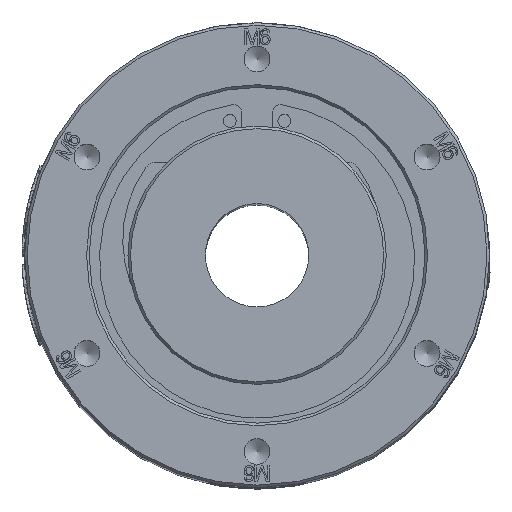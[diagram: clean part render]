
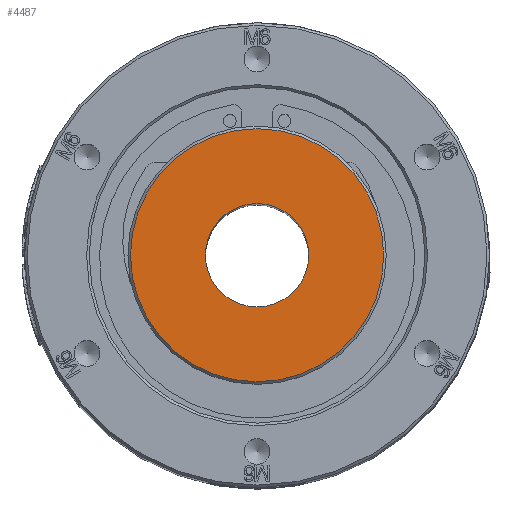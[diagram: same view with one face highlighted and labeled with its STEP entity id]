
A CAD part, top view. The second image highlights one B-rep face of the part: STEP entity #4487.
In plain terms, the highlighted planar face has unit normal (0, 0, 1).
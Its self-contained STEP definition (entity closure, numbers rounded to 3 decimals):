
#661=FACE_BOUND('',#10747,.T.);
#662=FACE_BOUND('',#10748,.T.);
#2403=CIRCLE('',#48898,10.);
#2515=CIRCLE('',#49134,24.5);
#4487=ADVANCED_FACE('',(#661,#662),#5989,.T.);
#5989=PLANE('',#49135);
#10747=EDGE_LOOP('',(#25180));
#10748=EDGE_LOOP('',(#25181));
#25180=ORIENTED_EDGE('',*,*,#39926,.T.);
#25181=ORIENTED_EDGE('',*,*,#39748,.F.);
#33243=VERTEX_POINT('',#91707);
#33387=VERTEX_POINT('',#92723);
#39748=EDGE_CURVE('',#33243,#33243,#2403,.T.);
#39926=EDGE_CURVE('',#33387,#33387,#2515,.T.);
#48898=AXIS2_PLACEMENT_3D('',#91706,#53542,#53543);
#49134=AXIS2_PLACEMENT_3D('',#92722,#54070,#54071);
#49135=AXIS2_PLACEMENT_3D('',#92724,#54072,#54073);
#53542=DIRECTION('',(0.,0.,1.));
#53543=DIRECTION('',(1.,0.,0.));
#54070=DIRECTION('',(0.,0.,1.));
#54071=DIRECTION('',(1.,0.,0.));
#54072=DIRECTION('',(0.,0.,1.));
#54073=DIRECTION('',(1.,0.,0.));
#91706=CARTESIAN_POINT('',(0.,0.,175.));
#91707=CARTESIAN_POINT('',(10.,0.,175.));
#92722=CARTESIAN_POINT('',(0.,0.,175.));
#92723=CARTESIAN_POINT('',(24.5,0.,175.));
#92724=CARTESIAN_POINT('',(0.,0.,175.));
